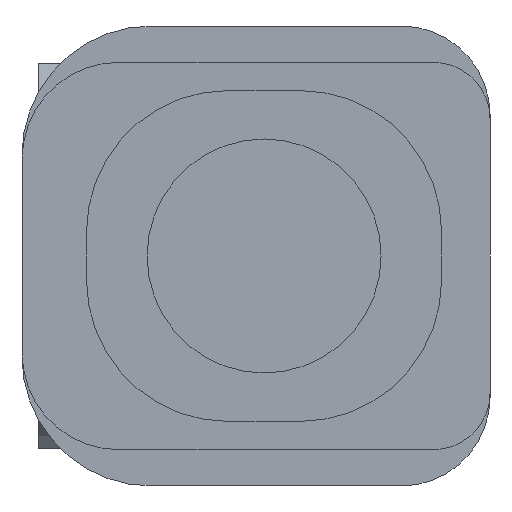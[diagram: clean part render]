
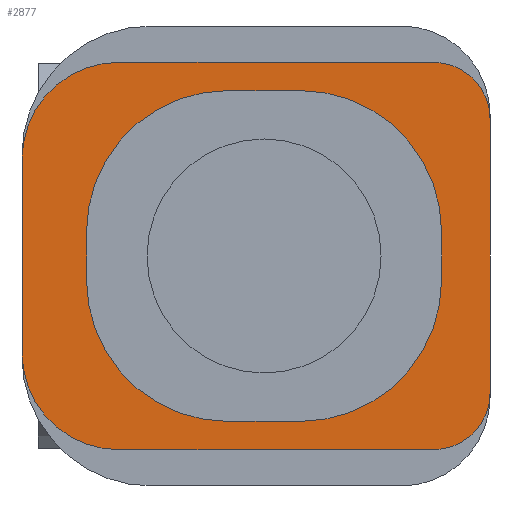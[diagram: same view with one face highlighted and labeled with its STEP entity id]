
A CAD part, front view. The second image highlights one B-rep face of the part: STEP entity #2877.
In plain terms, the highlighted planar face has unit normal (0, -1, 0).
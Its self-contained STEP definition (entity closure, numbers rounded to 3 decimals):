
#477=CARTESIAN_POINT('',(-0.7,-32.5,1.7));
#478=DIRECTION('',(0.,-1.,0.));
#479=DIRECTION('',(1.,0.,0.));
#480=AXIS2_PLACEMENT_3D('',#477,#478,#479);
#485=DIRECTION('',(0.,0.,-1.));
#486=VECTOR('',#485,3.4);
#487=CARTESIAN_POINT('',(0.,-32.5,1.7));
#488=LINE('',#487,#486);
#492=CARTESIAN_POINT('',(-0.7,-32.5,-1.7));
#493=DIRECTION('',(0.,1.,0.));
#494=DIRECTION('',(1.,0.,0.));
#495=AXIS2_PLACEMENT_3D('',#492,#493,#494);
#500=DIRECTION('',(-1.,0.,0.));
#501=VECTOR('',#500,3.9);
#502=CARTESIAN_POINT('',(-0.7,-32.5,-2.4));
#503=LINE('',#502,#501);
#507=CARTESIAN_POINT('',(-4.6,-32.5,-1.2));
#508=DIRECTION('',(0.,1.,0.));
#509=DIRECTION('',(0.,0.,-1.));
#510=AXIS2_PLACEMENT_3D('',#507,#508,#509);
#515=DIRECTION('',(0.,0.,1.));
#516=VECTOR('',#515,2.4);
#517=CARTESIAN_POINT('',(-5.8,-32.5,-1.2));
#518=LINE('',#517,#516);
#522=CARTESIAN_POINT('',(-4.6,-32.5,1.2));
#523=DIRECTION('',(0.,1.,0.));
#524=DIRECTION('',(-1.,0.,0.));
#525=AXIS2_PLACEMENT_3D('',#522,#523,#524);
#530=DIRECTION('',(1.,0.,0.));
#531=VECTOR('',#530,3.9);
#532=CARTESIAN_POINT('',(-4.6,-32.5,2.4));
#533=LINE('',#532,#531);
#537=CARTESIAN_POINT('',(-2.35,-32.5,0.3));
#538=DIRECTION('',(0.,-1.,0.));
#539=DIRECTION('',(1.,0.,0.));
#540=AXIS2_PLACEMENT_3D('',#537,#538,#539);
#545=DIRECTION('',(-1.,0.,0.));
#546=VECTOR('',#545,0.9);
#547=CARTESIAN_POINT('',(-2.35,-32.5,2.05));
#548=LINE('',#547,#546);
#552=DIRECTION('',(0.,0.,-1.));
#553=VECTOR('',#552,0.6);
#554=CARTESIAN_POINT('',(-5.,-32.5,0.3));
#555=LINE('',#554,#553);
#559=CARTESIAN_POINT('',(-3.25,-32.5,-0.3));
#560=DIRECTION('',(0.,-1.,0.));
#561=DIRECTION('',(-1.,0.,0.));
#562=AXIS2_PLACEMENT_3D('',#559,#560,#561);
#567=DIRECTION('',(1.,0.,0.));
#568=VECTOR('',#567,0.9);
#569=CARTESIAN_POINT('',(-3.25,-32.5,-2.05));
#570=LINE('',#569,#568);
#574=DIRECTION('',(0.,0.,1.));
#575=VECTOR('',#574,0.6);
#576=CARTESIAN_POINT('',(-0.6,-32.5,-0.3));
#577=LINE('',#576,#575);
#602=CARTESIAN_POINT('',(-2.35,-32.5,-0.3));
#603=DIRECTION('',(0.,1.,0.));
#604=DIRECTION('',(1.,0.,0.));
#605=AXIS2_PLACEMENT_3D('',#602,#603,#604);
#638=CARTESIAN_POINT('',(-3.25,-32.5,0.3));
#639=DIRECTION('',(0.,1.,0.));
#640=DIRECTION('',(-1.,0.,0.));
#641=AXIS2_PLACEMENT_3D('',#638,#639,#640);
#2268=CARTESIAN_POINT('',(-0.6,-32.5,-0.3));
#2269=CARTESIAN_POINT('',(-0.6,-32.5,0.3));
#2270=VERTEX_POINT('',#2268);
#2271=VERTEX_POINT('',#2269);
#2272=CARTESIAN_POINT('',(-2.35,-32.5,2.05));
#2273=VERTEX_POINT('',#2272);
#2274=CARTESIAN_POINT('',(-2.35,-32.5,-2.05));
#2275=VERTEX_POINT('',#2274);
#2276=CARTESIAN_POINT('',(-5.,-32.5,0.3));
#2277=CARTESIAN_POINT('',(-5.,-32.5,-0.3));
#2278=VERTEX_POINT('',#2276);
#2279=VERTEX_POINT('',#2277);
#2280=CARTESIAN_POINT('',(-3.25,-32.5,2.05));
#2281=VERTEX_POINT('',#2280);
#2282=CARTESIAN_POINT('',(-3.25,-32.5,-2.05));
#2283=VERTEX_POINT('',#2282);
#2284=CARTESIAN_POINT('',(0.,-32.5,1.7));
#2285=CARTESIAN_POINT('',(-0.7,-32.5,2.4));
#2286=VERTEX_POINT('',#2284);
#2287=VERTEX_POINT('',#2285);
#2288=CARTESIAN_POINT('',(0.,-32.5,-1.7));
#2289=VERTEX_POINT('',#2288);
#2290=CARTESIAN_POINT('',(-0.7,-32.5,-2.4));
#2291=VERTEX_POINT('',#2290);
#2292=CARTESIAN_POINT('',(-4.6,-32.5,-2.4));
#2293=VERTEX_POINT('',#2292);
#2294=CARTESIAN_POINT('',(-5.8,-32.5,-1.2));
#2295=VERTEX_POINT('',#2294);
#2296=CARTESIAN_POINT('',(-5.8,-32.5,1.2));
#2297=VERTEX_POINT('',#2296);
#2298=CARTESIAN_POINT('',(-4.6,-32.5,2.4));
#2299=VERTEX_POINT('',#2298);
#2844=CARTESIAN_POINT('',(0.,-32.5,0.));
#2845=DIRECTION('',(0.,1.,0.));
#2846=DIRECTION('',(1.,0.,0.));
#2847=AXIS2_PLACEMENT_3D('',#2844,#2845,#2846);
#2848=PLANE('',#2847);
#2849=ORIENTED_EDGE('',*,*,#2702,.T.);
#2850=ORIENTED_EDGE('',*,*,#2731,.T.);
#2851=ORIENTED_EDGE('',*,*,#2746,.T.);
#2852=ORIENTED_EDGE('',*,*,#2761,.T.);
#2853=ORIENTED_EDGE('',*,*,#2776,.T.);
#2854=ORIENTED_EDGE('',*,*,#2807,.T.);
#2855=ORIENTED_EDGE('',*,*,#2822,.T.);
#2856=ORIENTED_EDGE('',*,*,#2836,.F.);
#2857=EDGE_LOOP('',(#2849,#2850,#2851,#2852,#2853,#2854,#2855,#2856));
#2858=FACE_OUTER_BOUND('',#2857,.F.);
#2860=ORIENTED_EDGE('',*,*,#2859,.T.);
#2862=ORIENTED_EDGE('',*,*,#2861,.T.);
#2864=ORIENTED_EDGE('',*,*,#2863,.F.);
#2866=ORIENTED_EDGE('',*,*,#2865,.T.);
#2868=ORIENTED_EDGE('',*,*,#2867,.T.);
#2870=ORIENTED_EDGE('',*,*,#2869,.T.);
#2872=ORIENTED_EDGE('',*,*,#2871,.F.);
#2874=ORIENTED_EDGE('',*,*,#2873,.T.);
#2875=EDGE_LOOP('',(#2860,#2862,#2864,#2866,#2868,#2870,#2872,#2874));
#2876=FACE_BOUND('',#2875,.F.);
#2877=ADVANCED_FACE('',(#2858,#2876),#2848,.F.);
#481=CIRCLE('',#480,0.7);
#496=CIRCLE('',#495,0.7);
#511=CIRCLE('',#510,1.2);
#526=CIRCLE('',#525,1.2);
#541=CIRCLE('',#540,1.75);
#563=CIRCLE('',#562,1.75);
#606=CIRCLE('',#605,1.75);
#642=CIRCLE('',#641,1.75);
#2702=EDGE_CURVE('',#2286,#2289,#488,.T.);
#2731=EDGE_CURVE('',#2289,#2291,#496,.T.);
#2746=EDGE_CURVE('',#2291,#2293,#503,.T.);
#2761=EDGE_CURVE('',#2293,#2295,#511,.T.);
#2776=EDGE_CURVE('',#2295,#2297,#518,.T.);
#2807=EDGE_CURVE('',#2297,#2299,#526,.T.);
#2822=EDGE_CURVE('',#2299,#2287,#533,.T.);
#2836=EDGE_CURVE('',#2286,#2287,#481,.T.);
#2859=EDGE_CURVE('',#2271,#2273,#541,.T.);
#2861=EDGE_CURVE('',#2273,#2281,#548,.T.);
#2863=EDGE_CURVE('',#2278,#2281,#642,.T.);
#2865=EDGE_CURVE('',#2278,#2279,#555,.T.);
#2867=EDGE_CURVE('',#2279,#2283,#563,.T.);
#2869=EDGE_CURVE('',#2283,#2275,#570,.T.);
#2871=EDGE_CURVE('',#2270,#2275,#606,.T.);
#2873=EDGE_CURVE('',#2270,#2271,#577,.T.);
